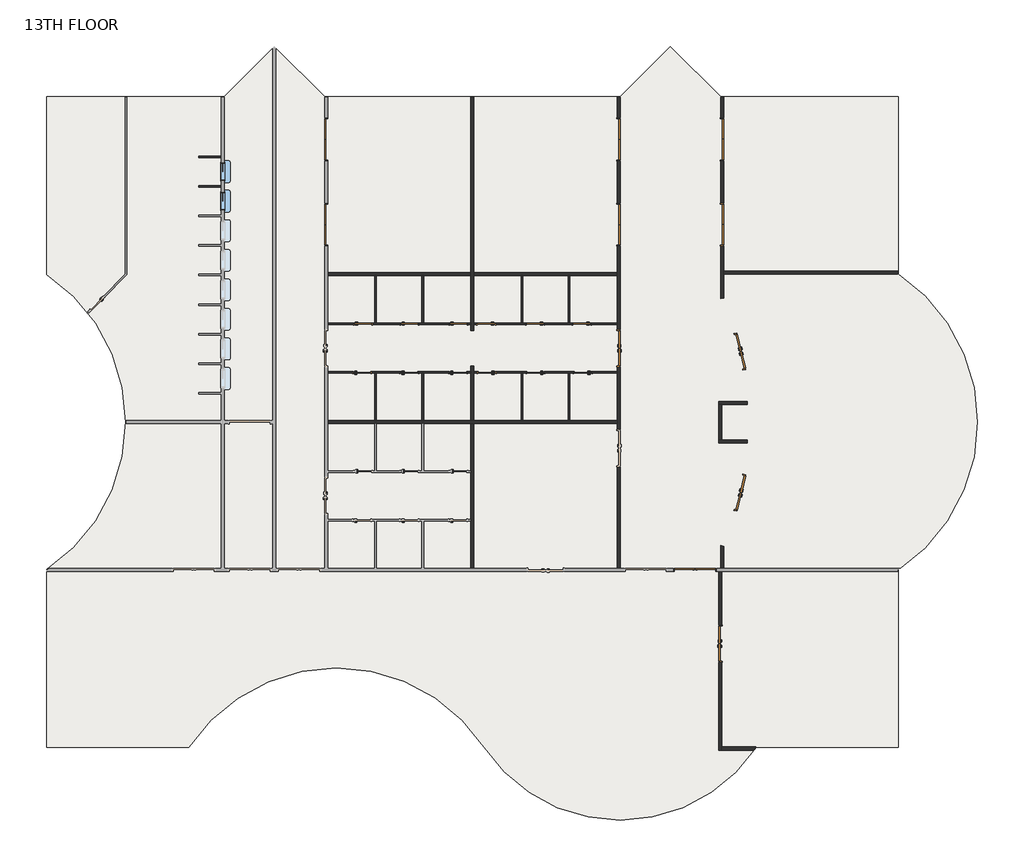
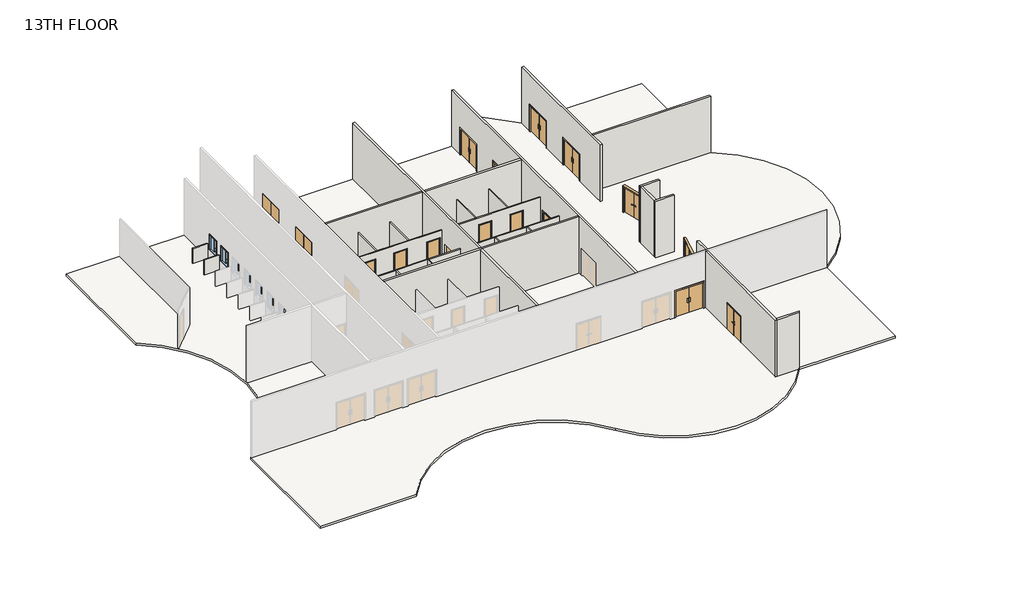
# One storey, part 2 of 2: 26 walls, 23 doors, 2 windows, 1 slab.
"""IFC4 building model written with IfcOpenShell, lengths in millimetres."""

from ifc_helpers import new_model, si_unit, point, frame, frame_2d, origin, place, context, project, spatial, polyline, circle_curve, trimmed, segment, composite_curve, outline, extrude, faceted_brep, transform, mapped, element, save
from ifc_brep_helpers import plane_surface, cylinder_surface, advanced_brep
from components import door_2f250f70, door_df8e76c5, door_0b13e4d9, door_b3a27a16, door_979b1b8c, door_f8b587be, pass_thru_4x3_19d81059

model = new_model("IFC4")

# Units and contexts
model_context = context("Model", 3, world=origin())
ifc_project = project(units=[si_unit("LENGTHUNIT", "METRE", prefix="MILLI")], contexts=[model_context])

# Site, building, storey
site = spatial("IfcSite", under=ifc_project)
building = spatial("IfcBuilding", under=site)
storey = spatial("IfcBuildingStorey", under=building, Name="13TH FLOOR", Elevation=59436.0)

# Doors
placement = place(None, origin())
door_shape = door_2f250f70(model_context)
element("IfcDoor", 1, ObjectType="Door-Passage-Double-Flush : 72\" x 82\"", at=placement, inside=storey, context=model_context, shape_type="MappedRepresentation", body=[
    mapped(door_shape, transform((35885.2621514, 20561.4429091, 59436.0), x_axis=(0.23975975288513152, -0.9708322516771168, 0.0), y_axis=(0.9708322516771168, 0.23975975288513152, 0.0), z_axis=(0.0, 0.0, 1.0))),
])
element("IfcDoor", 2, ObjectType="Door-Passage-Double-Flush : 72\" x 82\"", at=placement, inside=storey, context=model_context, shape_type="MappedRepresentation", body=[
    mapped(door_shape, transform((34887.5089577, 5494.3375, 59436.0), x_axis=(0.0, 1.0, 0.0), y_axis=(-1.0, 0.0, 0.0), z_axis=(0.0, 0.0, 1.0))),
])
door_2_shape = door_df8e76c5(model_context)
element("IfcDoor", 3, ObjectType="Door-Passage-Double-Flush : 72\" x 82\"", at=placement, inside=storey, context=model_context, shape_type="MappedRepresentation", body=[
    mapped(door_2_shape, transform((35886.7385063, 13277.3403388, 59436.0), x_axis=(0.23936619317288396, 0.9709293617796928, 0.0), y_axis=(-0.9709293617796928, 0.23936619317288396, 0.0), z_axis=(0.0, 0.0, 1.0))),
])
element("IfcDoor", 4, ObjectType="Door-Passage-Double-Flush : 72\" x 82\"", at=placement, inside=storey, context=model_context, shape_type="MappedRepresentation", body=[
    mapped(door_2_shape, transform((29628.0650257, 20729.575, 59436.0), x_axis=(0.0, 1.0, 0.0), y_axis=(-1.0, 0.0, 0.0), z_axis=(0.0, 0.0, 1.0))),
])
door_3_shape = door_0b13e4d9(model_context)
element("IfcDoor", 5, ObjectType="Door-Passage-Double-Flush-Dbl_Acting : 84\" x 84\"", at=placement, inside=storey, context=model_context, shape_type="MappedRepresentation", body=[
    mapped(door_3_shape, transform((33564.0300515, 9293.225, 59436.0), x_axis=(-1.0, 0.0, 0.0), y_axis=(0.0, -1.0, 0.0), z_axis=(0.0, 0.0, 1.0))),
])
element("IfcDoor", 6, ObjectType="Door-Passage-Double-Flush-Dbl_Acting : 84\" x 84\"", at=placement, inside=storey, context=model_context, shape_type="MappedRepresentation", body=[
    mapped(door_3_shape, transform((29628.0650257, 31499.175, 59436.0), x_axis=(0.0, 1.0, 0.0), y_axis=(-1.0, 0.0, 0.0), z_axis=(0.0, 0.0, 1.0))),
])
element("IfcDoor", 7, ObjectType="Door-Passage-Double-Flush-Dbl_Acting : 84\" x 84\"", at=placement, inside=storey, context=model_context, shape_type="MappedRepresentation", body=[
    mapped(door_3_shape, transform((29628.0650257, 27101.8, 59436.0), x_axis=(0.0, 1.0, 0.0), y_axis=(-1.0, 0.0, 0.0), z_axis=(0.0, 0.0, 1.0))),
])
door_4_shape = door_b3a27a16(model_context)
element("IfcDoor", 8, ObjectType="Door-Passage-Double-Flush-Dbl_Acting : 84\" x 84\"", at=placement, inside=storey, context=model_context, shape_type="MappedRepresentation", body=[
    mapped(door_4_shape, transform((14556.3400257, 31499.175, 59436.0), x_axis=(0.0, 1.0, 0.0), y_axis=(-1.0, 0.0, 0.0), z_axis=(0.0, 0.0, 1.0))),
])
element("IfcDoor", 9, ObjectType="Door-Passage-Double-Flush-Dbl_Acting : 84\" x 84\"", at=placement, inside=storey, context=model_context, shape_type="MappedRepresentation", body=[
    mapped(door_4_shape, transform((14556.3400257, 27101.8, 59436.0), x_axis=(0.0, 1.0, 0.0), y_axis=(-1.0, 0.0, 0.0), z_axis=(0.0, 0.0, 1.0))),
])
element("IfcDoor", 10, ObjectType="Door-Passage-Double-Flush-Dbl_Acting : 84\" x 84\"", at=placement, inside=storey, context=model_context, shape_type="MappedRepresentation", body=[
    mapped(door_4_shape, transform((34956.2675515, 31499.175, 59436.0), x_axis=(0.0, -1.0, 0.0), y_axis=(1.0, 0.0, 0.0), z_axis=(0.0, 0.0, 1.0))),
])
element("IfcDoor", 11, ObjectType="Door-Passage-Double-Flush-Dbl_Acting : 84\" x 84\"", at=placement, inside=storey, context=model_context, shape_type="MappedRepresentation", body=[
    mapped(door_4_shape, transform((34956.2675515, 27101.8, 59436.0), x_axis=(0.0, -1.0, 0.0), y_axis=(1.0, 0.0, 0.0), z_axis=(0.0, 0.0, 1.0))),
])
door_5_shape = door_979b1b8c(model_context)
element("IfcDoor", 12, ObjectType="Door-Passage-Single-Flush : 36\" x 96\"", at=placement, inside=storey, context=model_context, shape_type="MappedRepresentation", body=[
    mapped(door_5_shape, transform((16456.5775257, 21977.35, 59436.0), x_axis=(1.0, 0.0, 0.0), y_axis=(0.0, 1.0, 0.0), z_axis=(0.0, 0.0, 1.0))),
])
element("IfcDoor", 13, ObjectType="Door-Passage-Single-Flush : 36\" x 96\"", at=placement, inside=storey, context=model_context, shape_type="MappedRepresentation", body=[
    mapped(door_5_shape, transform((18855.2900257, 21977.35, 59436.0), x_axis=(1.0, 0.0, 0.0), y_axis=(0.0, 1.0, 0.0), z_axis=(0.0, 0.0, 1.0))),
])
element("IfcDoor", 14, ObjectType="Door-Passage-Single-Flush : 36\" x 96\"", at=placement, inside=storey, context=model_context, shape_type="MappedRepresentation", body=[
    mapped(door_5_shape, transform((21373.0650257, 21977.35, 59436.0), x_axis=(1.0, 0.0, 0.0), y_axis=(0.0, 1.0, 0.0), z_axis=(0.0, 0.0, 1.0))),
])
element("IfcDoor", 15, ObjectType="Door-Passage-Single-Flush : 36\" x 96\"", at=placement, inside=storey, context=model_context, shape_type="MappedRepresentation", body=[
    mapped(door_5_shape, transform((27778.6275257, 19481.8, 59436.0), x_axis=(-1.0, 0.0, 0.0), y_axis=(0.0, -1.0, 0.0), z_axis=(0.0, 0.0, 1.0))),
])
element("IfcDoor", 16, ObjectType="Door-Passage-Single-Flush : 36\" x 96\"", at=placement, inside=storey, context=model_context, shape_type="MappedRepresentation", body=[
    mapped(door_5_shape, transform((25348.1650257, 19481.8, 59436.0), x_axis=(-1.0, 0.0, 0.0), y_axis=(0.0, -1.0, 0.0), z_axis=(0.0, 0.0, 1.0))),
])
element("IfcDoor", 17, ObjectType="Door-Passage-Single-Flush : 36\" x 96\"", at=placement, inside=storey, context=model_context, shape_type="MappedRepresentation", body=[
    mapped(door_5_shape, transform((22830.3900257, 19481.8, 59436.0), x_axis=(-1.0, 0.0, 0.0), y_axis=(0.0, -1.0, 0.0), z_axis=(0.0, 0.0, 1.0))),
])
door_6_shape = door_f8b587be(model_context)
element("IfcDoor", 18, ObjectType="Door-Passage-Single-Flush : 36\" x 96\"", at=placement, inside=storey, context=model_context, shape_type="MappedRepresentation", body=[
    mapped(door_6_shape, transform((16405.7775257, 19481.8, 59436.0), x_axis=(1.0, 0.0, 0.0), y_axis=(0.0, 1.0, 0.0), z_axis=(0.0, 0.0, 1.0))),
])
element("IfcDoor", 19, ObjectType="Door-Passage-Single-Flush : 36\" x 96\"", at=placement, inside=storey, context=model_context, shape_type="MappedRepresentation", body=[
    mapped(door_6_shape, transform((18836.2400257, 19481.8, 59436.0), x_axis=(1.0, 0.0, 0.0), y_axis=(0.0, 1.0, 0.0), z_axis=(0.0, 0.0, 1.0))),
])
element("IfcDoor", 20, ObjectType="Door-Passage-Single-Flush : 36\" x 96\"", at=placement, inside=storey, context=model_context, shape_type="MappedRepresentation", body=[
    mapped(door_6_shape, transform((21354.0150257, 19481.8, 59436.0), x_axis=(1.0, 0.0, 0.0), y_axis=(0.0, 1.0, 0.0), z_axis=(0.0, 0.0, 1.0))),
])
element("IfcDoor", 21, ObjectType="Door-Passage-Single-Flush : 36\" x 96\"", at=placement, inside=storey, context=model_context, shape_type="MappedRepresentation", body=[
    mapped(door_6_shape, transform((27727.8275257, 21977.35, 59436.0), x_axis=(-1.0, 0.0, 0.0), y_axis=(0.0, -1.0, 0.0), z_axis=(0.0, 0.0, 1.0))),
])
element("IfcDoor", 22, ObjectType="Door-Passage-Single-Flush : 36\" x 96\"", at=placement, inside=storey, context=model_context, shape_type="MappedRepresentation", body=[
    mapped(door_6_shape, transform((25329.1150257, 21977.35, 59436.0), x_axis=(-1.0, 0.0, 0.0), y_axis=(0.0, -1.0, 0.0), z_axis=(0.0, 0.0, 1.0))),
])
element("IfcDoor", 23, ObjectType="Door-Passage-Single-Flush : 36\" x 96\"", at=placement, inside=storey, context=model_context, shape_type="MappedRepresentation", body=[
    mapped(door_6_shape, transform((22811.3400257, 21977.35, 59436.0), x_axis=(-1.0, 0.0, 0.0), y_axis=(0.0, -1.0, 0.0), z_axis=(0.0, 0.0, 1.0))),
])

# Slab
element("IfcSlab", 24, ObjectType="ARCHITECTURAL FINISH FLOOR", at=placement, inside=storey, context=model_context, shape_type="SweptSolid", body=[
    extrude(outline(composite_curve([segment(polyline([(9294.3144878, 33696.275), (11885.8887629, 36287.8492751), (14477.463038, 33696.275), (29706.9420135, 33696.275), (32298.5162886, 36287.8492751), (34890.0905637, 33696.275), (44041.5300515, 33696.275), (44041.5300515, 24546.3877275)]), True, "CONTINUOUS"), segment(trimmed(circle_curve(frame_2d((38974.293871, 16919.575)), 9156.7), [point((44041.5300515, 24546.3877275))], [point((44041.5300515, 9292.7622725))], False, "CARTESIAN"), True, "CONTINUOUS"), segment(polyline([(44041.5300515, 9292.7622725), (44041.5300515, 142.875), (36720.4425102, 142.875)]), True, "CONTINUOUS"), segment(trimmed(circle_curve(frame_2d((29712.2025257, 4799.7966199)), 8414.4130309), [point((36720.4425102, 142.875))], [point((22700.1916667, 148.5548109))], False, "CARTESIAN"), True, "CONTINUOUS"), segment(trimmed(circle_curve(frame_2d((15090.775, -4898.9611805)), 9131.3), [point((22700.1916667, 148.5548109))], [point((7477.593824, 142.875))], True, "CARTESIAN"), True, "CONTINUOUS"), segment(polyline([(7477.593824, 142.875), (142.875, 142.875), (142.875, 9306.393824)]), True, "CONTINUOUS"), segment(trimmed(circle_curve(frame_2d((-4898.9611805, 16919.575)), 9131.3), [point((142.875, 9306.393824))], [point((142.875, 24532.756176))], True, "CARTESIAN"), True, "CONTINUOUS"), segment(polyline([(142.875, 24532.756176), (142.875, 33696.275), (9294.3144878, 33696.275)]), True, "CONTINUOUS")], self_intersect=False)), frame((0.0, 0.0, 59283.6), z_axis=(0.0, 0.0, 1.0), x_axis=(1.0, 0.0, 0.0)), (0.0, 0.0, 1.0), 171.45),
])

# Walls
element("IfcWall", 25, ObjectType="SYR_INT_ONE_HOUR", at=placement, inside=storey, context=model_context, shape_type="SweptSolid", body=[
    extrude(outline(polyline([(17066.1775257, 22023.3875), (17066.1775257, 24461.7875), (17145.5525257, 24461.7875), (17145.5525257, 22023.3875), (17066.1775257, 22023.3875)])), frame((0.0, 0.0, 59436.0), z_axis=(0.0, 0.0, 1.0), x_axis=(1.0, 0.0, 0.0)), (0.0, 0.0, 1.0), 3048.0),
])
element("IfcWall", 26, ObjectType="SYR_INT_ONE_HOUR", at=placement, inside=storey, context=model_context, shape_type="SweptSolid", body=[
    extrude(outline(polyline([(19576.0150257, 19435.7625), (19576.0150257, 16997.3625), (19496.6400257, 16997.3625), (19496.6400257, 19435.7625), (19576.0150257, 19435.7625)])), frame((0.0, 0.0, 59436.0), z_axis=(0.0, 0.0, 1.0), x_axis=(1.0, 0.0, 0.0)), (0.0, 0.0, 1.0), 3048.0),
])
element("IfcWall", 27, ObjectType="SYR_INT_ONE_HOUR", at=placement, inside=storey, context=model_context, shape_type="Brep", body=[
    faceted_brep([(14627.7775257, 22023.3875, 62484.0), (17066.1775257, 22023.3875, 62484.0), (17145.5525257, 22023.3875, 62484.0), (19496.6400257, 22023.3875, 62484.0), (19576.0150257, 22023.3875, 62484.0), (22014.4150257, 22023.3875, 62484.0), (22014.4150257, 22023.3875, 59436.0), (21862.0150257, 22023.3875, 59436.0), (21862.0150257, 22023.3875, 61906.15), (20884.1150257, 22023.3875, 61906.15), (20884.1150257, 22023.3875, 59436.0), (19576.0150257, 22023.3875, 59436.0), (19496.6400257, 22023.3875, 59436.0), (19344.2400257, 22023.3875, 59436.0), (19344.2400257, 22023.3875, 61906.15), (18366.3400257, 22023.3875, 61906.15), (18366.3400257, 22023.3875, 59436.0), (17145.5525257, 22023.3875, 59436.0), (17066.1775257, 22023.3875, 59436.0), (16945.5275257, 22023.3875, 59436.0), (16945.5275257, 22023.3875, 61906.15), (15967.6275257, 22023.3875, 61906.15), (15967.6275257, 22023.3875, 59436.0), (14627.7775257, 22023.3875, 59436.0), (22014.4150257, 21944.0125, 62484.0), (14627.7775257, 21944.0125, 62484.0), (14627.7775257, 21944.0125, 59436.0), (15967.6275257, 21944.0125, 59436.0), (15967.6275257, 21944.0125, 61906.15), (16945.5275257, 21944.0125, 61906.15), (16945.5275257, 21944.0125, 59436.0), (18366.3400257, 21944.0125, 59436.0), (18366.3400257, 21944.0125, 61906.15), (19344.2400257, 21944.0125, 61906.15), (19344.2400257, 21944.0125, 59436.0), (20884.1150257, 21944.0125, 59436.0), (20884.1150257, 21944.0125, 61906.15), (21862.0150257, 21944.0125, 61906.15), (21862.0150257, 21944.0125, 59436.0), (22014.4150257, 21944.0125, 59436.0)], [[[0, 1, 2, 3, 4, 5, 6, 7, 8, 9, 10, 11, 12, 13, 14, 15, 16, 17, 18, 19, 20, 21, 22, 23]], [[24, 25, 26, 27, 28, 29, 30, 31, 32, 33, 34, 35, 36, 37, 38, 39]], [[23, 22, 27, 26]], [[30, 19, 18, 17, 16, 31]], [[34, 13, 12, 11, 10, 35]], [[6, 39, 38, 7]], [[5, 4, 3, 2, 1, 0, 25, 24]], [[29, 20, 19, 30]], [[20, 29, 28, 21]], [[21, 28, 27, 22]], [[14, 13, 34, 33]], [[15, 14, 33, 32]], [[16, 15, 32, 31]], [[37, 8, 7, 38]], [[8, 37, 36, 9]], [[9, 36, 35, 10]], [[0, 23, 26, 25]], [[6, 5, 24, 39]]]),
])
element("IfcWall", 28, ObjectType="SYR_INT_ONE_HOUR", at=placement, inside=storey, context=model_context, shape_type="Brep", body=[
    faceted_brep([(14627.7775257, 19515.1375, 62484.0), (22014.4150257, 19515.1375, 62484.0), (22014.4150257, 19515.1375, 59436.0), (21842.9650257, 19515.1375, 59436.0), (21842.9650257, 19515.1375, 61906.15), (20865.0650257, 19515.1375, 61906.15), (20865.0650257, 19515.1375, 59436.0), (19325.1900257, 19515.1375, 59436.0), (19325.1900257, 19515.1375, 61906.15), (18347.2900257, 19515.1375, 61906.15), (18347.2900257, 19515.1375, 59436.0), (16894.7275257, 19515.1375, 59436.0), (16894.7275257, 19515.1375, 61906.15), (15916.8275257, 19515.1375, 61906.15), (15916.8275257, 19515.1375, 59436.0), (14627.7775257, 19515.1375, 59436.0), (22014.4150257, 19435.7625, 62484.0), (19576.0150257, 19435.7625, 62484.0), (19496.6400257, 19435.7625, 62484.0), (17145.5525257, 19435.7625, 62484.0), (17066.1775257, 19435.7625, 62484.0), (14627.7775257, 19435.7625, 62484.0), (14627.7775257, 19435.7625, 59436.0), (15916.8275257, 19435.7625, 59436.0), (15916.8275257, 19435.7625, 61906.15), (16894.7275257, 19435.7625, 61906.15), (16894.7275257, 19435.7625, 59436.0), (17066.1775257, 19435.7625, 59436.0), (17145.5525257, 19435.7625, 59436.0), (18347.2900257, 19435.7625, 59436.0), (18347.2900257, 19435.7625, 61906.15), (19325.1900257, 19435.7625, 61906.15), (19325.1900257, 19435.7625, 59436.0), (19496.6400257, 19435.7625, 59436.0), (19576.0150257, 19435.7625, 59436.0), (20865.0650257, 19435.7625, 59436.0), (20865.0650257, 19435.7625, 61906.15), (21842.9650257, 19435.7625, 61906.15), (21842.9650257, 19435.7625, 59436.0), (22014.4150257, 19435.7625, 59436.0)], [[[0, 1, 2, 3, 4, 5, 6, 7, 8, 9, 10, 11, 12, 13, 14, 15]], [[16, 17, 18, 19, 20, 21, 22, 23, 24, 25, 26, 27, 28, 29, 30, 31, 32, 33, 34, 35, 36, 37, 38, 39]], [[15, 14, 23, 22]], [[26, 11, 10, 29, 28, 27]], [[32, 7, 6, 35, 34, 33]], [[2, 39, 38, 3]], [[1, 0, 21, 20, 19, 18, 17, 16]], [[25, 12, 11, 26]], [[12, 25, 24, 13]], [[13, 24, 23, 14]], [[31, 8, 7, 32]], [[8, 31, 30, 9]], [[9, 30, 29, 10]], [[37, 4, 3, 38]], [[4, 37, 36, 5]], [[5, 36, 35, 6]], [[0, 15, 22, 21]], [[2, 1, 16, 39]]]),
])
element("IfcWall", 29, ObjectType="SYR_INT_ONE_HOUR", at=placement, inside=storey, context=model_context, shape_type="SweptSolid", body=[
    extrude(outline(polyline([(17066.1775257, 16997.3625), (17066.1775257, 19435.7625), (17145.5525257, 19435.7625), (17145.5525257, 16997.3625), (17066.1775257, 16997.3625)])), frame((0.0, 0.0, 59436.0), z_axis=(0.0, 0.0, 1.0), x_axis=(1.0, 0.0, 0.0)), (0.0, 0.0, 1.0), 3048.0),
])
element("IfcWall", 30, ObjectType="SYR_INT_ONE_HOUR", at=placement, inside=storey, context=model_context, shape_type="SweptSolid", body=[
    extrude(outline(polyline([(19576.0150257, 24461.7875), (19576.0150257, 22023.3875), (19496.6400257, 22023.3875), (19496.6400257, 24461.7875), (19576.0150257, 24461.7875)])), frame((0.0, 0.0, 59436.0), z_axis=(0.0, 0.0, 1.0), x_axis=(1.0, 0.0, 0.0)), (0.0, 0.0, 1.0), 3048.0),
])
element("IfcWall", 31, ObjectType="SYR_INT_ONE_HOUR", at=placement, inside=storey, context=model_context, shape_type="SweptSolid", body=[
    extrude(outline(polyline([(7979.2710938, 29111.575), (9144.0, 29111.575), (9144.0, 29032.2), (7979.2710938, 29032.2), (7979.2710938, 29111.575)])), frame((0.0, 0.0, 59436.0), z_axis=(0.0, 0.0, 1.0), x_axis=(1.0, 0.0, 0.0)), (0.0, 0.0, 1.0), 1219.2),
])
element("IfcWall", 32, ObjectType="SYR_INT_ONE_HOUR", at=placement, inside=storey, context=model_context, shape_type="SweptSolid", body=[
    extrude(outline(polyline([(7979.2710938, 30635.575), (9144.0, 30635.575), (9144.0, 30556.2), (7979.2710938, 30556.2), (7979.2710938, 30635.575)])), frame((0.0, 0.0, 59436.0), z_axis=(0.0, 0.0, 1.0), x_axis=(1.0, 0.0, 0.0)), (0.0, 0.0, 1.0), 1219.2),
])
element("IfcWall", 33, ObjectType="SYR_INT_ONE_HOUR", at=placement, inside=storey, context=model_context, shape_type="SweptSolid", body=[
    extrude(outline(polyline([(27038.8525257, 22023.3875), (27038.8525257, 24461.7875), (27118.2275257, 24461.7875), (27118.2275257, 22023.3875), (27038.8525257, 22023.3875)])), frame((0.0, 0.0, 59436.0), z_axis=(0.0, 0.0, 1.0), x_axis=(1.0, 0.0, 0.0)), (0.0, 0.0, 1.0), 3048.0),
])
element("IfcWall", 34, ObjectType="SYR_INT_ONE_HOUR", at=placement, inside=storey, context=model_context, shape_type="SweptSolid", body=[
    extrude(outline(polyline([(24687.7650257, 19435.7625), (24687.7650257, 16997.3625), (24608.3900257, 16997.3625), (24608.3900257, 19435.7625), (24687.7650257, 19435.7625)])), frame((0.0, 0.0, 59436.0), z_axis=(0.0, 0.0, 1.0), x_axis=(1.0, 0.0, 0.0)), (0.0, 0.0, 1.0), 3048.0),
])
element("IfcWall", 35, ObjectType="SYR_INT_ONE_HOUR", at=placement, inside=storey, context=model_context, shape_type="Brep", body=[
    faceted_brep([(29556.6275257, 21944.0125, 62484.0), (22169.9900257, 21944.0125, 62484.0), (22169.9900257, 21944.0125, 59436.0), (22322.3900257, 21944.0125, 59436.0), (22322.3900257, 21944.0125, 61906.15), (23300.2900257, 21944.0125, 61906.15), (23300.2900257, 21944.0125, 59436.0), (24840.1650257, 21944.0125, 59436.0), (24840.1650257, 21944.0125, 61906.15), (25818.0650257, 21944.0125, 61906.15), (25818.0650257, 21944.0125, 59436.0), (27238.8775257, 21944.0125, 59436.0), (27238.8775257, 21944.0125, 61906.15), (28216.7775257, 21944.0125, 61906.15), (28216.7775257, 21944.0125, 59436.0), (29556.6275257, 21944.0125, 59436.0), (22169.9900257, 22023.3875, 62484.0), (24608.3900257, 22023.3875, 62484.0), (24687.7650257, 22023.3875, 62484.0), (27038.8525257, 22023.3875, 62484.0), (27118.2275257, 22023.3875, 62484.0), (29556.6275257, 22023.3875, 62484.0), (29556.6275257, 22023.3875, 59436.0), (28216.7775257, 22023.3875, 59436.0), (28216.7775257, 22023.3875, 61906.15), (27238.8775257, 22023.3875, 61906.15), (27238.8775257, 22023.3875, 59436.0), (27118.2275257, 22023.3875, 59436.0), (27038.8525257, 22023.3875, 59436.0), (25818.0650257, 22023.3875, 59436.0), (25818.0650257, 22023.3875, 61906.15), (24840.1650257, 22023.3875, 61906.15), (24840.1650257, 22023.3875, 59436.0), (24687.7650257, 22023.3875, 59436.0), (24608.3900257, 22023.3875, 59436.0), (23300.2900257, 22023.3875, 59436.0), (23300.2900257, 22023.3875, 61906.15), (22322.3900257, 22023.3875, 61906.15), (22322.3900257, 22023.3875, 59436.0), (22169.9900257, 22023.3875, 59436.0)], [[[0, 1, 2, 3, 4, 5, 6, 7, 8, 9, 10, 11, 12, 13, 14, 15]], [[16, 17, 18, 19, 20, 21, 22, 23, 24, 25, 26, 27, 28, 29, 30, 31, 32, 33, 34, 35, 36, 37, 38, 39]], [[15, 14, 23, 22]], [[26, 11, 10, 29, 28, 27]], [[32, 7, 6, 35, 34, 33]], [[2, 39, 38, 3]], [[1, 0, 21, 20, 19, 18, 17, 16]], [[25, 12, 11, 26]], [[12, 25, 24, 13]], [[13, 24, 23, 14]], [[8, 7, 32, 31]], [[9, 8, 31, 30]], [[10, 9, 30, 29]], [[37, 4, 3, 38]], [[4, 37, 36, 5]], [[5, 36, 35, 6]], [[0, 15, 22, 21]], [[2, 1, 16, 39]]]),
])
element("IfcWall", 36, ObjectType="SYR_INT_ONE_HOUR", at=placement, inside=storey, context=model_context, shape_type="Brep", body=[
    faceted_brep([(29556.6275257, 19435.7625, 62484.0), (27118.2275257, 19435.7625, 62484.0), (27038.8525257, 19435.7625, 62484.0), (24687.7650257, 19435.7625, 62484.0), (24608.3900257, 19435.7625, 62484.0), (22169.9900257, 19435.7625, 62484.0), (22169.9900257, 19435.7625, 59436.0), (22341.4400257, 19435.7625, 59436.0), (22341.4400257, 19435.7625, 61906.15), (23319.3400257, 19435.7625, 61906.15), (23319.3400257, 19435.7625, 59436.0), (24608.3900257, 19435.7625, 59436.0), (24687.7650257, 19435.7625, 59436.0), (24859.2150257, 19435.7625, 59436.0), (24859.2150257, 19435.7625, 61906.15), (25837.1150257, 19435.7625, 61906.15), (25837.1150257, 19435.7625, 59436.0), (27038.8525257, 19435.7625, 59436.0), (27118.2275257, 19435.7625, 59436.0), (27289.6775257, 19435.7625, 59436.0), (27289.6775257, 19435.7625, 61906.15), (28267.5775257, 19435.7625, 61906.15), (28267.5775257, 19435.7625, 59436.0), (29556.6275257, 19435.7625, 59436.0), (22169.9900257, 19515.1375, 62484.0), (29556.6275257, 19515.1375, 62484.0), (29556.6275257, 19515.1375, 59436.0), (28267.5775257, 19515.1375, 59436.0), (28267.5775257, 19515.1375, 61906.15), (27289.6775257, 19515.1375, 61906.15), (27289.6775257, 19515.1375, 59436.0), (25837.1150257, 19515.1375, 59436.0), (25837.1150257, 19515.1375, 61906.15), (24859.2150257, 19515.1375, 61906.15), (24859.2150257, 19515.1375, 59436.0), (23319.3400257, 19515.1375, 59436.0), (23319.3400257, 19515.1375, 61906.15), (22341.4400257, 19515.1375, 61906.15), (22341.4400257, 19515.1375, 59436.0), (22169.9900257, 19515.1375, 59436.0)], [[[0, 1, 2, 3, 4, 5, 6, 7, 8, 9, 10, 11, 12, 13, 14, 15, 16, 17, 18, 19, 20, 21, 22, 23]], [[24, 25, 26, 27, 28, 29, 30, 31, 32, 33, 34, 35, 36, 37, 38, 39]], [[23, 22, 27, 26]], [[30, 19, 18, 17, 16, 31]], [[34, 13, 12, 11, 10, 35]], [[6, 39, 38, 7]], [[5, 4, 3, 2, 1, 0, 25, 24]], [[29, 20, 19, 30]], [[20, 29, 28, 21]], [[21, 28, 27, 22]], [[33, 14, 13, 34]], [[14, 33, 32, 15]], [[15, 32, 31, 16]], [[37, 8, 7, 38]], [[8, 37, 36, 9]], [[9, 36, 35, 10]], [[0, 23, 26, 25]], [[6, 5, 24, 39]]]),
])
element("IfcWall", 37, ObjectType="SYR_INT_ONE_HOUR", at=placement, inside=storey, context=model_context, shape_type="SweptSolid", body=[
    extrude(outline(polyline([(27038.8525257, 16997.3625), (27038.8525257, 19435.7625), (27118.2275257, 19435.7625), (27118.2275257, 16997.3625), (27038.8525257, 16997.3625)])), frame((0.0, 0.0, 59436.0), z_axis=(0.0, 0.0, 1.0), x_axis=(1.0, 0.0, 0.0)), (0.0, 0.0, 1.0), 3048.0),
])
element("IfcWall", 38, ObjectType="SYR_INT_ONE_HOUR", at=placement, inside=storey, context=model_context, shape_type="SweptSolid", body=[
    extrude(outline(polyline([(24687.7650257, 24461.7875), (24687.7650257, 22023.3875), (24608.3900257, 22023.3875), (24608.3900257, 24461.7875), (24687.7650257, 24461.7875)])), frame((0.0, 0.0, 59436.0), z_axis=(0.0, 0.0, 1.0), x_axis=(1.0, 0.0, 0.0)), (0.0, 0.0, 1.0), 3048.0),
])
element("IfcWall", 39, ObjectType="SYR_INT_TWO_HOUR", at=placement, inside=storey, context=model_context, shape_type="Brep", body=[
    faceted_brep([(34803.3714577, 0.0, 64008.0), (34803.3714577, 9221.7875, 64008.0), (34803.3714577, 9221.7875, 59436.0), (34803.3714577, 6459.5375, 59436.0), (34803.3714577, 6459.5375, 61620.4), (34803.3714577, 4529.1375, 61620.4), (34803.3714577, 4529.1375, 59436.0), (34803.3714577, 0.0, 59436.0), (34958.9464577, 9221.7875, 64008.0), (34958.9464577, 155.575, 64008.0), (34958.9464577, 0.0, 64008.0), (34958.9464577, 0.0, 59436.0), (34958.9464577, 155.575, 59436.0), (34958.9464577, 4529.1375, 59436.0), (34958.9464577, 4529.1375, 61620.4), (34958.9464577, 6459.5375, 61620.4), (34958.9464577, 6459.5375, 59436.0), (34958.9464577, 9221.7875, 59436.0)], [[[0, 1, 2, 3, 4, 5, 6, 7]], [[8, 9, 10, 11, 12, 13, 14, 15, 16, 17]], [[2, 17, 16, 3]], [[11, 7, 6, 13, 12]], [[1, 0, 10, 9, 8]], [[2, 1, 8, 17]], [[0, 7, 11, 10]], [[15, 4, 3, 16]], [[4, 15, 14, 5]], [[5, 14, 13, 6]]]),
])
element("IfcWall", 40, ObjectType="SYR_INT_TWO_HOUR", at=placement, inside=storey, context=model_context, shape_type="SweptSolid", body=[
    extrude(outline(composite_curve([segment(polyline([(36607.9065696, 0.0), (34958.9464577, 0.0), (34958.9464577, 155.575), (36713.6300515, 155.575)]), True, "CONTINUOUS"), segment(trimmed(circle_curve(frame_2d((29712.2025257, 4799.7966199)), 8401.7130309), [point((36713.6300515, 155.575))], [point((36607.9065696, 0.0))], False, "CARTESIAN"), True, "CONTINUOUS")], self_intersect=False)), frame((0.0, 0.0, 59436.0), z_axis=(0.0, 0.0, 1.0), x_axis=(1.0, 0.0, 0.0)), (0.0, 0.0, 1.0), 4572.0),
])
element("IfcWall", 41, ObjectType="SYR_INT_TWO_HOUR", at=placement, inside=storey, context=model_context, shape_type="Brep", body=[
    faceted_brep([(29556.6275257, 9377.3625, 64008.0), (29556.6275257, 16841.7875, 64008.0), (29556.6275257, 16997.3625, 64008.0), (29556.6275257, 24461.7875, 64008.0), (29556.6275257, 24617.3625, 64008.0), (29556.6275257, 33683.575, 64008.0), (29556.6275257, 33683.575, 59436.0), (29556.6275257, 32616.775, 59436.0), (29556.6275257, 32616.775, 61671.2), (29556.6275257, 30381.575, 61671.2), (29556.6275257, 30381.575, 59436.0), (29556.6275257, 28219.4, 59436.0), (29556.6275257, 28219.4, 61671.2), (29556.6275257, 25984.2, 61671.2), (29556.6275257, 25984.2, 59436.0), (29556.6275257, 24617.3625, 59436.0), (29556.6275257, 24461.7875, 59436.0), (29556.6275257, 22023.3875, 59436.0), (29556.6275257, 21944.0125, 59436.0), (29556.6275257, 21694.775, 59436.0), (29556.6275257, 21694.775, 61620.4), (29556.6275257, 19764.375, 61620.4), (29556.6275257, 19764.375, 59436.0), (29556.6275257, 19515.1375, 59436.0), (29556.6275257, 19435.7625, 59436.0), (29556.6275257, 16997.3625, 59436.0), (29556.6275257, 16841.7875, 59436.0), (29556.6275257, 16536.9875, 59436.0), (29556.6275257, 16536.9875, 61620.4), (29556.6275257, 14606.5875, 61620.4), (29556.6275257, 14606.5875, 59436.0), (29556.6275257, 9377.3625, 59436.0), (29712.2025257, 33683.575, 64008.0), (29712.2025257, 9377.3625, 64008.0), (29712.2025257, 9377.3625, 59436.0), (29712.2025257, 14606.5875, 59436.0), (29712.2025257, 14606.5875, 61620.4), (29712.2025257, 16536.9875, 61620.4), (29712.2025257, 16536.9875, 59436.0), (29712.2025257, 19764.375, 59436.0), (29712.2025257, 19764.375, 61620.4), (29712.2025257, 21694.775, 61620.4), (29712.2025257, 21694.775, 59436.0), (29712.2025257, 25984.2, 59436.0), (29712.2025257, 25984.2, 61671.2), (29712.2025257, 28219.4, 61671.2), (29712.2025257, 28219.4, 59436.0), (29712.2025257, 30381.575, 59436.0), (29712.2025257, 30381.575, 61671.2), (29712.2025257, 32616.775, 61671.2), (29712.2025257, 32616.775, 59436.0), (29712.2025257, 33683.575, 59436.0)], [[[0, 1, 2, 3, 4, 5, 6, 7, 8, 9, 10, 11, 12, 13, 14, 15, 16, 17, 18, 19, 20, 21, 22, 23, 24, 25, 26, 27, 28, 29, 30, 31]], [[32, 33, 34, 35, 36, 37, 38, 39, 40, 41, 42, 43, 44, 45, 46, 47, 48, 49, 50, 51]], [[34, 31, 30, 35]], [[42, 19, 18, 17, 16, 15, 14, 43]], [[22, 39, 38, 27, 26, 25, 24, 23]], [[46, 11, 10, 47]], [[7, 6, 51, 50]], [[5, 4, 3, 2, 1, 0, 33, 32]], [[0, 31, 34, 33]], [[41, 20, 19, 42]], [[20, 41, 40, 21]], [[21, 40, 39, 22]], [[45, 12, 11, 46]], [[12, 45, 44, 13]], [[13, 44, 43, 14]], [[49, 8, 7, 50]], [[8, 49, 48, 9]], [[9, 48, 47, 10]], [[29, 36, 35, 30]], [[36, 29, 28, 37]], [[37, 28, 27, 38]], [[6, 5, 32, 51]]]),
])
element("IfcWall", 42, ObjectType="SYR_INT_TWO_HOUR", at=placement, inside=storey, context=model_context, shape_type="Brep", body=[
    faceted_brep([(34884.8300515, 23286.7810764, 64008.0), (34884.8300515, 33683.575, 64008.0), (34884.8300515, 33683.575, 59436.0), (34884.8300515, 32616.775, 59436.0), (34884.8300515, 32616.775, 61671.2), (34884.8300515, 30381.575, 61671.2), (34884.8300515, 30381.575, 59436.0), (34884.8300515, 28219.4, 59436.0), (34884.8300515, 28219.4, 61671.2), (34884.8300515, 25984.2, 61671.2), (34884.8300515, 25984.2, 59436.0), (34884.8300515, 23286.7810764, 59436.0), (35040.4050515, 33683.575, 64008.0), (35040.4050515, 24695.15, 64008.0), (35040.4050515, 24539.575, 64008.0), (35040.4050515, 23320.9573614, 64008.0), (35040.4050515, 23320.9573614, 59436.0), (35040.4050515, 24539.575, 59436.0), (35040.4050515, 24695.15, 59436.0), (35040.4050515, 25984.2, 59436.0), (35040.4050515, 25984.2, 61671.2), (35040.4050515, 28219.4, 61671.2), (35040.4050515, 28219.4, 59436.0), (35040.4050515, 30381.575, 59436.0), (35040.4050515, 30381.575, 61671.2), (35040.4050515, 32616.775, 61671.2), (35040.4050515, 32616.775, 59436.0), (35040.4050515, 33683.575, 59436.0)], [[[0, 1, 2, 3, 4, 5, 6, 7, 8, 9, 10, 11]], [[12, 13, 14, 15, 16, 17, 18, 19, 20, 21, 22, 23, 24, 25, 26, 27]], [[16, 11, 10, 19, 18, 17]], [[3, 2, 27, 26]], [[6, 23, 22, 7]], [[1, 0, 15, 14, 13, 12]], [[0, 11, 16, 15]], [[5, 24, 23, 6]], [[24, 5, 4, 25]], [[25, 4, 3, 26]], [[9, 20, 19, 10]], [[20, 9, 8, 21]], [[21, 8, 7, 22]], [[2, 1, 12, 27]]]),
])
element("IfcWall", 43, ObjectType="SYR_INT_TWO_HOUR", at=placement, inside=storey, context=model_context, shape_type="Brep", body=[
    faceted_brep([(14627.7775257, 16841.7875, 59436.0), (17066.1775257, 16841.7875, 59436.0), (17145.5525257, 16841.7875, 59436.0), (19496.6400257, 16841.7875, 59436.0), (19576.0150257, 16841.7875, 59436.0), (22014.4150257, 16841.7875, 59436.0), (22169.9900257, 16841.7875, 59436.0), (29556.6275257, 16841.7875, 59436.0), (29556.6275257, 16841.7875, 64008.0), (22169.9900257, 16841.7875, 64008.0), (22014.4150257, 16841.7875, 64008.0), (14627.7775257, 16841.7875, 64008.0), (14627.7775257, 16997.3625, 59436.0), (14627.7775257, 16997.3625, 64008.0), (22014.4150257, 16997.3625, 64008.0), (22169.9900257, 16997.3625, 64008.0), (29556.6275257, 16997.3625, 64008.0), (29556.6275257, 16997.3625, 59436.0), (27118.2275257, 16997.3625, 59436.0), (27038.8525257, 16997.3625, 59436.0), (24687.7650257, 16997.3625, 59436.0), (24608.3900257, 16997.3625, 59436.0), (22169.9900257, 16997.3625, 59436.0), (22014.4150257, 16997.3625, 59436.0), (19576.0150257, 16997.3625, 59436.0), (19496.6400257, 16997.3625, 59436.0), (17145.5525257, 16997.3625, 59436.0), (17066.1775257, 16997.3625, 59436.0)], [[[0, 1, 2, 3, 4, 5, 6, 7, 8, 9, 10, 11]], [[12, 13, 14, 15, 16, 17, 18, 19, 20, 21, 22, 23, 24, 25, 26, 27]], [[7, 6, 5, 4, 3, 2, 1, 0, 12, 27, 26, 25, 24, 23, 22, 21, 20, 19, 18, 17]], [[11, 10, 9, 8, 16, 15, 14, 13]], [[0, 11, 13, 12]], [[8, 7, 17, 16]]]),
])
element("IfcWall", 44, ObjectType="SYR_INT_TWO_HOUR", at=placement, inside=storey, context=model_context, shape_type="Brep", body=[
    faceted_brep([(22169.9900257, 9377.3625, 64008.0), (22169.9900257, 9377.3625, 59436.0), (22169.9900257, 16841.7875, 59436.0), (22169.9900257, 16841.7875, 64008.0), (22014.4150257, 9377.3625, 59436.0), (22014.4150257, 9377.3625, 64008.0), (22014.4150257, 16841.7875, 64008.0), (22014.4150257, 16841.7875, 59436.0), (22014.4150257, 14403.3875, 59436.0), (22014.4150257, 14324.0125, 59436.0), (22014.4150257, 11895.1375, 59436.0), (22014.4150257, 11815.7625, 59436.0)], [[[0, 1, 2, 3]], [[4, 5, 6, 7, 8, 9, 10, 11]], [[1, 4, 11, 10, 9, 8, 7, 2]], [[5, 0, 3, 6]], [[1, 0, 5, 4]], [[3, 2, 7, 6]]]),
    faceted_brep([(22169.9900257, 19815.175, 59436.0), (22169.9900257, 19815.175, 61569.6), (22169.9900257, 21643.975, 61569.6), (22169.9900257, 21643.975, 59436.0), (22169.9900257, 21944.0125, 59436.0), (22169.9900257, 22023.3875, 59436.0), (22169.9900257, 24461.7875, 59436.0), (22169.9900257, 24617.3625, 59436.0), (22169.9900257, 33683.575, 59436.0), (22169.9900257, 33683.575, 64008.0), (22169.9900257, 24617.3625, 64008.0), (22169.9900257, 24461.7875, 64008.0), (22169.9900257, 16997.3625, 64008.0), (22169.9900257, 16997.3625, 59436.0), (22169.9900257, 19435.7625, 59436.0), (22169.9900257, 19515.1375, 59436.0), (22014.4150257, 19815.175, 61569.6), (22014.4150257, 19815.175, 59436.0), (22014.4150257, 19515.1375, 59436.0), (22014.4150257, 19435.7625, 59436.0), (22014.4150257, 16997.3625, 59436.0), (22014.4150257, 16997.3625, 64008.0), (22014.4150257, 24461.7875, 64008.0), (22014.4150257, 24617.3625, 64008.0), (22014.4150257, 33683.575, 64008.0), (22014.4150257, 33683.575, 59436.0), (22014.4150257, 24617.3625, 59436.0), (22014.4150257, 24461.7875, 59436.0), (22014.4150257, 22023.3875, 59436.0), (22014.4150257, 21944.0125, 59436.0), (22014.4150257, 21643.975, 59436.0), (22014.4150257, 21643.975, 61569.6)], [[[0, 1, 2, 3, 4, 5, 6, 7, 8, 9, 10, 11, 12, 13, 14, 15]], [[16, 17, 18, 19, 20, 21, 22, 23, 24, 25, 26, 27, 28, 29, 30, 31]], [[17, 0, 15, 14, 13, 20, 19, 18]], [[3, 30, 29, 28, 27, 26, 25, 8, 7, 6, 5, 4]], [[9, 24, 23, 22, 21, 12, 11, 10]], [[13, 12, 21, 20]], [[17, 16, 1, 0]], [[31, 30, 3, 2]], [[16, 31, 2, 1]], [[9, 8, 25, 24]]]),
])
element("IfcWall", 45, ObjectType="SYR_INT_TWO_HOUR", at=placement, inside=storey, context=model_context, shape_type="Brep", body=[
    faceted_brep([(14627.7775257, 24461.7875, 64008.0), (14627.7775257, 24461.7875, 59436.0), (17066.1775257, 24461.7875, 59436.0), (17145.5525257, 24461.7875, 59436.0), (19496.6400257, 24461.7875, 59436.0), (19576.0150257, 24461.7875, 59436.0), (22014.4150257, 24461.7875, 59436.0), (22014.4150257, 24461.7875, 64008.0), (14627.7775257, 24617.3625, 59436.0), (14627.7775257, 24617.3625, 64008.0), (22014.4150257, 24617.3625, 64008.0), (22014.4150257, 24617.3625, 59436.0)], [[[0, 1, 2, 3, 4, 5, 6, 7]], [[8, 9, 10, 11]], [[1, 8, 11, 6, 5, 4, 3, 2]], [[9, 0, 7, 10]], [[1, 0, 9, 8]], [[7, 6, 11, 10]]]),
    faceted_brep([(29556.6275257, 24461.7875, 59436.0), (29556.6275257, 24461.7875, 64008.0), (22169.9900257, 24461.7875, 64008.0), (22169.9900257, 24461.7875, 59436.0), (24608.3900257, 24461.7875, 59436.0), (24687.7650257, 24461.7875, 59436.0), (27038.8525257, 24461.7875, 59436.0), (27118.2275257, 24461.7875, 59436.0), (29556.6275257, 24617.3625, 64008.0), (29556.6275257, 24617.3625, 59436.0), (22169.9900257, 24617.3625, 59436.0), (22169.9900257, 24617.3625, 64008.0)], [[[0, 1, 2, 3, 4, 5, 6, 7]], [[8, 9, 10, 11]], [[9, 0, 7, 6, 5, 4, 3, 10]], [[1, 8, 11, 2]], [[1, 0, 9, 8]], [[3, 2, 11, 10]]]),
])
element("IfcWall", 46, ObjectType="SYR_INT_TWO_HOUR", at=placement, inside=storey, context=model_context, shape_type="SweptSolid", body=[
    extrude(outline(polyline([(35040.4050515, 24695.15), (44028.8300515, 24695.15), (44028.8300515, 24539.575), (35040.4050515, 24539.575), (35040.4050515, 24695.15)])), frame((0.0, 0.0, 59436.0), z_axis=(0.0, 0.0, 1.0), x_axis=(1.0, 0.0, 0.0)), (0.0, 0.0, 1.0), 4572.0),
])
element("IfcWall", 47, ObjectType="SYR_INT_TWO_HOUR", at=placement, inside=storey, context=model_context, shape_type="SweptSolid", body=[
    extrude(outline(polyline([(34884.8300515, 9377.3625), (34884.8300515, 10546.0189236), (35040.4050515, 10511.8426386), (35040.4050515, 9377.3625), (34884.8300515, 9377.3625)])), frame((0.0, 0.0, 59436.0), z_axis=(0.0, 0.0, 1.0), x_axis=(1.0, 0.0, 0.0)), (0.0, 0.0, 1.0), 4572.0),
])
element("IfcWall", 48, ObjectType="SYR_INT_TWO_HOUR", at=placement, inside=storey, context=model_context, shape_type="AdvancedBrep", body=[
    advanced_brep(
    [(36260.4137436, 16002.0, 59436.0), (34939.3011452, 16002.0, 59436.0), (34783.7261452, 16002.0, 59436.0), (34783.7261452, 16002.0, 64008.0), (34939.3011452, 16002.0, 64008.0), (36260.4137436, 16002.0, 64008.0), (36250.2111967, 15846.425, 59436.0), (36250.2111967, 15846.425, 64008.0), (34783.7261452, 15846.425, 64008.0), (34783.7261452, 15846.425, 59436.0)],
    [
        (0, 1),
        (1, 2),
        (2, 3),
        (3, 4),
        (4, 5),
        (5, 0),
        (6, 7),
        (7, 8),
        (8, 9),
        (9, 6),
        (0, 6, circle_curve(frame((21125.7990959, 16916.4, 59436.0), z_axis=(0.0, 0.0, -1.0), x_axis=(1.0, 0.0, 0.0)), 15162.2125)),
        (9, 2),
        (3, 8),
        (7, 5, circle_curve(frame((21125.7990959, 16916.4, 64008.0), z_axis=(0.0, 0.0, 1.0), x_axis=(1.0, 0.0, 0.0)), 15162.2125)),
    ],
    [
        plane_surface(frame((36365.7990959, 16002.0, 59436.0), z_axis=(0.0, 1.0, 0.0), x_axis=(-1.0, 0.0, 0.0))),
        plane_surface(frame((36365.7990959, 15846.425, 59436.0), z_axis=(0.0, -1.0, 0.0), x_axis=(1.0, 0.0, 0.0))),
        plane_surface(frame((36333.467029, 16002.0, 59436.0), z_axis=(0.0, 0.0, -1.0), x_axis=(0.0, -1.0, 0.0))),
        plane_surface(frame((34861.5136452, 16002.0, 64008.0), z_axis=(0.0, 0.0, 1.0), x_axis=(0.0, -1.0, 0.0))),
        cylinder_surface(frame((21125.7990959, 16916.4, 59436.0), z_axis=(0.0, 0.0, -1.0), x_axis=(1.0, 0.0, 0.0)), 15162.2125),
        plane_surface(frame((34783.7261452, 17087.0102762, 59436.0), z_axis=(-1.0, 0.0, 0.0), x_axis=(0.0, -1.0, 0.0))),
    ],
    [
        (0, [[1, 2, 3, 4, 5, 6]]),
        (1, [[7, 8, 9, 10]]),
        (2, [[-2, -1, 11, -10, 12]]),
        (3, [[-5, -4, 13, -8, 14]]),
        (4, [[-6, -14, -7, -11]]),
        (5, [[-3, -12, -9, -13]]),
    ],
),
])
element("IfcWall", 49, ObjectType="SYR_INT_TWO_HOUR", at=placement, inside=storey, context=model_context, shape_type="AdvancedBrep", body=[
    advanced_brep(
    [(34783.7261452, 17830.8, 59436.0), (34939.3011452, 17830.8, 59436.0), (36260.4137436, 17830.8, 59436.0), (36260.4137436, 17830.8, 64008.0), (34939.3011452, 17830.8, 64008.0), (34783.7261452, 17830.8, 64008.0), (34783.7261452, 17986.375, 59436.0), (34783.7261452, 17986.375, 64008.0), (36250.2111967, 17986.375, 64008.0), (36250.2111967, 17986.375, 59436.0)],
    [
        (0, 1),
        (1, 2),
        (2, 3),
        (3, 4),
        (4, 5),
        (5, 0),
        (6, 7),
        (7, 8),
        (8, 9),
        (9, 6),
        (0, 6),
        (9, 2, circle_curve(frame((21125.7990959, 16916.4, 59436.0), z_axis=(0.0, 0.0, -1.0), x_axis=(1.0, 0.0, 0.0)), 15162.2125)),
        (3, 8, circle_curve(frame((21125.7990959, 16916.4, 64008.0), z_axis=(0.0, 0.0, 1.0), x_axis=(1.0, 0.0, 0.0)), 15162.2125)),
        (7, 5),
    ],
    [
        plane_surface(frame((34892.5990959, 17830.8, 59436.0), z_axis=(0.0, -1.0, 0.0), x_axis=(1.0, 0.0, 0.0))),
        plane_surface(frame((34892.5990959, 17986.375, 59436.0), z_axis=(0.0, 1.0, 0.0), x_axis=(-1.0, 0.0, 0.0))),
        plane_surface(frame((34861.5136452, 17830.8, 59436.0), z_axis=(0.0, 0.0, -1.0), x_axis=(0.0, 1.0, 0.0))),
        plane_surface(frame((36333.467029, 17830.8, 64008.0), z_axis=(0.0, 0.0, 1.0), x_axis=(0.0, 1.0, 0.0))),
        cylinder_surface(frame((21125.7990959, 16916.4, 59436.0), z_axis=(0.0, 0.0, -1.0), x_axis=(1.0, 0.0, 0.0)), 15162.2125),
        plane_surface(frame((34783.7261452, 17087.0102762, 59436.0), z_axis=(-1.0, 0.0, 0.0), x_axis=(0.0, -1.0, 0.0))),
    ],
    [
        (0, [[1, 2, 3, 4, 5, 6]]),
        (1, [[7, 8, 9, 10]]),
        (2, [[-2, -1, 11, -10, 12]]),
        (3, [[-5, -4, 13, -8, 14]]),
        (4, [[-3, -12, -9, -13]]),
        (5, [[-6, -14, -7, -11]]),
    ],
),
])
element("IfcWall", 50, ObjectType="SYR_INT_TWO_HOUR", at=placement, inside=storey, context=model_context, shape_type="SweptSolid", body=[
    extrude(outline(polyline([(34939.3011452, 17830.8), (34939.3011452, 16002.0), (34783.7261452, 16002.0), (34783.7261452, 17830.8), (34939.3011452, 17830.8)])), frame((0.0, 0.0, 59436.0), z_axis=(0.0, 0.0, 1.0), x_axis=(1.0, 0.0, 0.0)), (0.0, 0.0, 1.0), 4572.0),
])

# Windows
pass_thru_4x3_shape = pass_thru_4x3_19d81059(model_context)
element("IfcWindow", 51, ObjectType="Pass thru : 4x3", at=placement, inside=storey, context=model_context, shape_type="MappedRepresentation", body=[
    mapped(pass_thru_4x3_shape, transform((9221.7875, 28309.8875, 59436.0), x_axis=(0.0, 1.0, 0.0), y_axis=(-1.0, 0.0, 0.0), z_axis=(0.0, 0.0, 1.0))),
])
element("IfcWindow", 52, ObjectType="Pass thru : 4x3", at=placement, inside=storey, context=model_context, shape_type="MappedRepresentation", body=[
    mapped(pass_thru_4x3_shape, transform((9221.7875, 29833.8875, 59436.0), x_axis=(0.0, 1.0, 0.0), y_axis=(-1.0, 0.0, 0.0), z_axis=(0.0, 0.0, 1.0))),
])

save(model, "model.ifc")
